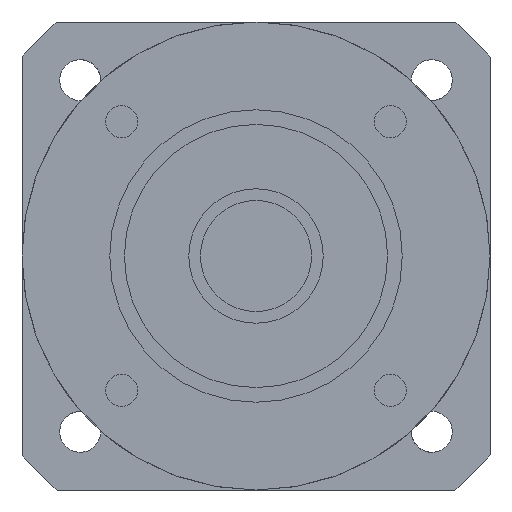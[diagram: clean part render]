
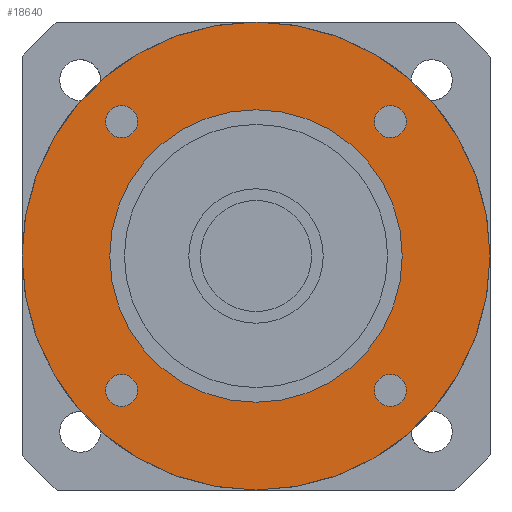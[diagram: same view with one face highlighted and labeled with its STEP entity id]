
A CAD part, left-side view. The second image highlights one B-rep face of the part: STEP entity #18640.
In plain terms, the highlighted planar face has unit normal (-1, 0, 0) as drawn and (0, 0, -1) by its records, which use the part's own axes.
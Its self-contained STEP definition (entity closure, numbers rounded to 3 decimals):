
#17460=CARTESIAN_POINT('',(-40.,0.,-42.));
#17470=VERTEX_POINT('',#17460);
#17560=CARTESIAN_POINT('',(40.,0.,-42.));
#17570=VERTEX_POINT('',#17560);
#17600=CARTESIAN_POINT('',(0.,0.,-42.)
);
#17610=DIRECTION('',(0.,0.,1.));
#17620=DIRECTION('',(1.,0.,0.));
#17630=AXIS2_PLACEMENT_3D('',#17600,#17610,#17620);
#17640=CIRCLE('',#17630,40.);
#17650=CARTESIAN_POINT('',(0.,-40.,-42.));
#17660=VERTEX_POINT('',#17650);
#17670=EDGE_CURVE('',#17660,#17570,#17640,.T.);
#17690=EDGE_CURVE('',#17470,#17660,#17640,.T.);
#17740=CARTESIAN_POINT('',(0.,0.,-42.)
);
#17750=DIRECTION('',(0.,0.,-1.));
#17760=DIRECTION('',(1.,0.,0.));
#17770=AXIS2_PLACEMENT_3D('',#17740,#17750,#17760);
#17780=PLANE('',#17770);
#17790=CARTESIAN_POINT('',(22.981,-22.981,-42.));
#17800=DIRECTION('',(0.,0.,-1.));
#17810=DIRECTION('',(1.,0.,0.));
#17820=AXIS2_PLACEMENT_3D('',#17790,#17800,#17810);
#17830=CIRCLE('',#17820,2.75);
#17840=CARTESIAN_POINT('',(25.731,-22.981,-42.));
#17850=VERTEX_POINT('',#17840);
#17860=CARTESIAN_POINT('',(20.231,-22.981,-42.));
#17870=VERTEX_POINT('',#17860);
#17880=EDGE_CURVE('',#17850,#17870,#17830,.T.);
#17890=ORIENTED_EDGE('',*,*,#17880,.F.);
#17900=EDGE_CURVE('',#17870,#17850,#17830,.T.);
#17910=ORIENTED_EDGE('',*,*,#17900,.F.);
#17920=EDGE_LOOP('',(#17910,#17890));
#17930=FACE_BOUND('',#17920,.T.);
#17940=ORIENTED_EDGE('',*,*,#17670,.F.);
#17950=EDGE_CURVE('',#17570,#17470,#17640,.T.);
#17960=ORIENTED_EDGE('',*,*,#17950,.F.);
#17970=ORIENTED_EDGE('',*,*,#17690,.F.);
#17980=EDGE_LOOP('',(#17970,#17960,#17940));
#17990=FACE_OUTER_BOUND('',#17980,.T.);
#18000=CARTESIAN_POINT('',(22.981,22.981,-42.));
#18010=DIRECTION('',(0.,0.,-1.));
#18020=DIRECTION('',(0.,1.,0.));
#18030=AXIS2_PLACEMENT_3D('',#18000,#18010,#18020);
#18040=CIRCLE('',#18030,2.75);
#18050=CARTESIAN_POINT('',(22.981,25.731,-42.));
#18060=VERTEX_POINT('',#18050);
#18070=CARTESIAN_POINT('',(22.981,20.231,-42.));
#18080=VERTEX_POINT('',#18070);
#18090=EDGE_CURVE('',#18060,#18080,#18040,.T.);
#18100=ORIENTED_EDGE('',*,*,#18090,.F.);
#18110=EDGE_CURVE('',#18080,#18060,#18040,.T.);
#18120=ORIENTED_EDGE('',*,*,#18110,.F.);
#18130=EDGE_LOOP('',(#18120,#18100));
#18140=FACE_BOUND('',#18130,.T.);
#18150=CARTESIAN_POINT('',(-22.981,22.981,-42.));
#18160=DIRECTION('',(0.,0.,-1.));
#18170=DIRECTION('',(-1.,0.,0.));
#18180=AXIS2_PLACEMENT_3D('',#18150,#18160,#18170);
#18190=CIRCLE('',#18180,2.75);
#18200=CARTESIAN_POINT('',(-25.731,22.981,-42.));
#18210=VERTEX_POINT('',#18200);
#18220=CARTESIAN_POINT('',(-20.231,22.981,-42.));
#18230=VERTEX_POINT('',#18220);
#18240=EDGE_CURVE('',#18210,#18230,#18190,.T.);
#18250=ORIENTED_EDGE('',*,*,#18240,.F.);
#18260=EDGE_CURVE('',#18230,#18210,#18190,.T.);
#18270=ORIENTED_EDGE('',*,*,#18260,.F.);
#18280=EDGE_LOOP('',(#18270,#18250));
#18290=FACE_BOUND('',#18280,.T.);
#18300=CARTESIAN_POINT('',(-22.981,-22.981,-42.));
#18310=DIRECTION('',(0.,0.,-1.));
#18320=DIRECTION('',(0.,-1.,0.));
#18330=AXIS2_PLACEMENT_3D('',#18300,#18310,#18320);
#18340=CIRCLE('',#18330,2.75);
#18350=CARTESIAN_POINT('',(-22.981,-25.731,-42.));
#18360=VERTEX_POINT('',#18350);
#18370=CARTESIAN_POINT('',(-22.981,-20.231,-42.));
#18380=VERTEX_POINT('',#18370);
#18390=EDGE_CURVE('',#18360,#18380,#18340,.T.);
#18400=ORIENTED_EDGE('',*,*,#18390,.F.);
#18410=EDGE_CURVE('',#18380,#18360,#18340,.T.);
#18420=ORIENTED_EDGE('',*,*,#18410,.F.);
#18430=EDGE_LOOP('',(#18420,#18400));
#18440=FACE_BOUND('',#18430,.T.);
#18450=CARTESIAN_POINT('',(0.,0.,
-42.));
#18460=DIRECTION('',(0.,0.,1.));
#18470=DIRECTION('',(0.,1.,0.));
#18480=AXIS2_PLACEMENT_3D('',#18450,#18460,#18470);
#18490=CIRCLE('',#18480,25.);
#18500=CARTESIAN_POINT('',(-25.,0.,-42.));
#18510=VERTEX_POINT('',#18500);
#18520=CARTESIAN_POINT('',(25.,0.,-42.));
#18530=VERTEX_POINT('',#18520);
#18540=EDGE_CURVE('',#18510,#18530,#18490,.T.);
#18550=ORIENTED_EDGE('',*,*,#18540,.T.);
#18560=CARTESIAN_POINT('',(0.,25.,-42.));
#18570=VERTEX_POINT('',#18560);
#18580=EDGE_CURVE('',#18570,#18510,#18490,.T.);
#18590=ORIENTED_EDGE('',*,*,#18580,.T.);
#18600=EDGE_CURVE('',#18530,#18570,#18490,.T.);
#18610=ORIENTED_EDGE('',*,*,#18600,.T.);
#18620=EDGE_LOOP('',(#18610,#18590,#18550));
#18630=FACE_BOUND('',#18620,.T.);
#18640=ADVANCED_FACE('',(#17930,#17990,#18140,#18290,#18440,#18630),
#17780,.T.);
